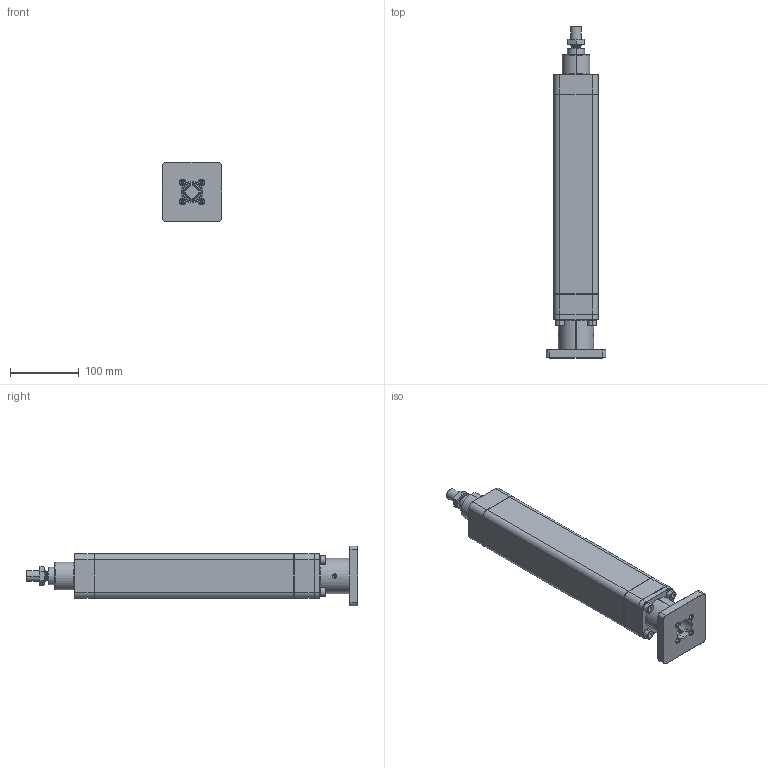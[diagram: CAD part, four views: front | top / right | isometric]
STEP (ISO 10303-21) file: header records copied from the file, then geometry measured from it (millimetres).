
FILE_DESCRIPTION (( 'STEP AP203' ), '1' );
FILE_NAME ('CS050-S050-200-D.STEP', '2012-02-06T21:40:44', ( 'Admin' ), ( '' ), 'SwSTEP 2.0', 'SolidWorks 2007', '' );
FILE_SCHEMA (( 'CONFIG_CONTROL_DESIGN' ));
Length unit declared in the file: millimetre
Products named in the file (16): CS050BsTestataPosteriore; M16DadoBasso; CAS050DrMOTORE-DIRETTO; CS050DrPiastraMotore86; M8x20Testa-Cilin-Esag-Incas; CS050-S050-200-D; CS050Bs200CorpoGuidato; CS050BsTestataAnteriore; BV08ViteDoppia; CS050BsBoccolaGuida; CS050BsSteloCromato; CS050BsNaselloINOX; CS050DrCampana; CS050DrCoperchietto; M5x20Testa-Cilin-Esag-Incas; M3x5Testa-Svas-Esag-Incas
Assembly tree (29 placements, depth 3):
  CS050-S050-200-D
    BV08ViteDoppia  x8
    M16DadoBasso
    M8x20Testa-Cilin-Esag-Incas  x4
    CS050Bs200CorpoGuidato
    CS050BsBoccolaGuida
    CS050BsNaselloINOX
    CS050BsSteloCromato
    CS050BsTestataPosteriore
    CS050BsTestataAnteriore
    CAS050DrMOTORE-DIRETTO
      M3x5Testa-Svas-Esag-Incas  x2
      CS050DrPiastraMotore86
      M5x20Testa-Cilin-Esag-Incas  x4
      CS050DrCoperchietto
      CS050DrCampana
Bounding box: 86 x 482.2 x 86 mm (x, y, z)
Volume: 978950 mm3; surface area: 293363.4 mm2
Topology: 29 solids, 29 shells, 1288 faces, 2797 edges, 1603 vertices
Faces by surface type: plane 430, cone 389, cylinder 342, torus 117, bspline 10
Entity records: 24366 total; most frequent: CARTESIAN_POINT 5096, DIRECTION 3878, ORIENTED_EDGE 3374, EDGE_CURVE 1687, AXIS2_PLACEMENT_3D 1554, VERTEX_POINT 981, EDGE_LOOP 866, VECTOR 770
